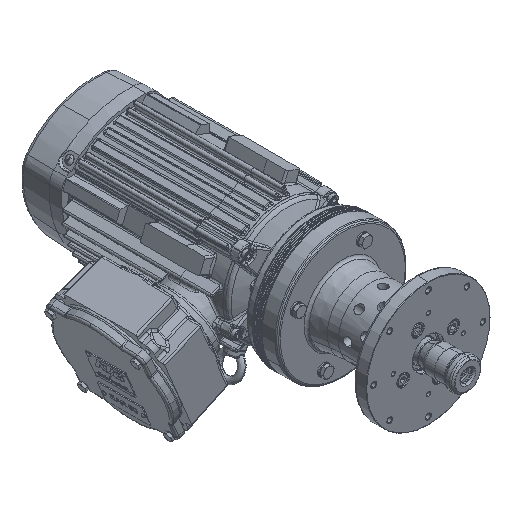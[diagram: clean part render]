
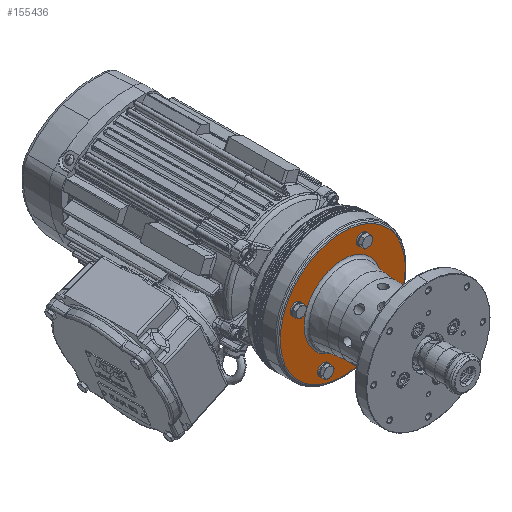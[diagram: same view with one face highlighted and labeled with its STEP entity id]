
A CAD part, isometric view. The second image highlights one B-rep face of the part: STEP entity #155436.
In plain terms, the highlighted planar face has unit normal (0, -1, 0).
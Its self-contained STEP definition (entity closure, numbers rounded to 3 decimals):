
#409 = CIRCLE ( 'NONE', #87055, 80.172 ) ;
#466 = ORIENTED_EDGE ( 'NONE', *, *, #133284, .T. ) ;
#579 = CIRCLE ( 'NONE', #78990, 4.1 ) ;
#1016 = VERTEX_POINT ( 'NONE', #162143 ) ;
#1484 = DIRECTION ( 'NONE',  ( 0., -1., 0. ) ) ;
#1885 = ORIENTED_EDGE ( 'NONE', *, *, #32575, .T. ) ;
#2301 = CIRCLE ( 'NONE', #10406, 4.1 ) ;
#4615 = DIRECTION ( 'NONE',  ( 0.924, 0., 0.383 ) ) ;
#5212 = AXIS2_PLACEMENT_3D ( 'NONE', #7483, #109858, #161789 ) ;
#6490 = DIRECTION ( 'NONE',  ( 0.924, 0., 0.383 ) ) ;
#7323 = CARTESIAN_POINT ( 'NONE',  ( 21.087, 109.7, 58.483 ) ) ;
#7483 = CARTESIAN_POINT ( 'NONE',  ( 0., 109.7, 0. ) ) ;
#7927 = DIRECTION ( 'NONE',  ( 0.924, 0., 0.383 ) ) ;
#8499 = CARTESIAN_POINT ( 'NONE',  ( 24.874, 109.7, 60.052 ) ) ;
#9047 = ORIENTED_EDGE ( 'NONE', *, *, #151559, .F. ) ;
#9292 = DIRECTION ( 'NONE',  ( 0.924, 0., 0.383 ) ) ;
#9958 = ORIENTED_EDGE ( 'NONE', *, *, #48568, .F. ) ;
#10406 = AXIS2_PLACEMENT_3D ( 'NONE', #132736, #1484, #105537 ) ;
#10506 = DIRECTION ( 'NONE',  ( 0., -1., 0. ) ) ;
#11238 = DIRECTION ( 'NONE',  ( 0.924, 0., 0.383 ) ) ;
#12480 = AXIS2_PLACEMENT_3D ( 'NONE', #39206, #142637, #26519 ) ;
#15012 = EDGE_LOOP ( 'NONE', ( #38539, #114709 ) ) ;
#16200 = EDGE_CURVE ( 'NONE', #96593, #28289, #2301, .T. ) ;
#22996 = AXIS2_PLACEMENT_3D ( 'NONE', #23214, #10506, #62143 ) ;
#23118 = DIRECTION ( 'NONE',  ( 0., -1., 0. ) ) ;
#23214 = CARTESIAN_POINT ( 'NONE',  ( -60.052, 109.7, 24.874 ) ) ;
#25476 = CIRCLE ( 'NONE', #39010, 4.1 ) ;
#25628 = CARTESIAN_POINT ( 'NONE',  ( -24.874, 109.7, -60.052 ) ) ;
#26519 = DIRECTION ( 'NONE',  ( 0.924, 0., 0.383 ) ) ;
#28289 = VERTEX_POINT ( 'NONE', #162820 ) ;
#31194 = ORIENTED_EDGE ( 'NONE', *, *, #158045, .T. ) ;
#32575 = EDGE_CURVE ( 'NONE', #110926, #56280, #109713, .T. ) ;
#34673 = CARTESIAN_POINT ( 'NONE',  ( -42.96, 109.7, -17.795 ) ) ;
#34997 = DIRECTION ( 'NONE',  ( 0.924, 0., 0.383 ) ) ;
#36334 = CARTESIAN_POINT ( 'NONE',  ( 28.662, 109.7, 61.621 ) ) ;
#36802 = ORIENTED_EDGE ( 'NONE', *, *, #16200, .F. ) ;
#38539 = ORIENTED_EDGE ( 'NONE', *, *, #89474, .F. ) ;
#39010 = AXIS2_PLACEMENT_3D ( 'NONE', #112031, #110336, #7927 ) ;
#39206 = CARTESIAN_POINT ( 'NONE',  ( 0., 109.7, 0. ) ) ;
#43511 = DIRECTION ( 'NONE',  ( 0.924, 0., 0.383 ) ) ;
#43879 = VERTEX_POINT ( 'NONE', #67357 ) ;
#44027 = FACE_OUTER_BOUND ( 'NONE', #107988, .T. ) ;
#45159 = AXIS2_PLACEMENT_3D ( 'NONE', #34673, #102359, #9292 ) ;
#45349 = CARTESIAN_POINT ( 'NONE',  ( -63.84, 109.7, 23.305 ) ) ;
#45859 = CIRCLE ( 'NONE', #5212, 49.564 ) ;
#47328 = ORIENTED_EDGE ( 'NONE', *, *, #64383, .F. ) ;
#48523 = VERTEX_POINT ( 'NONE', #60455 ) ;
#48568 = EDGE_CURVE ( 'NONE', #72221, #95410, #25476, .T. ) ;
#50451 = DIRECTION ( 'NONE',  ( 0.924, 0., 0.383 ) ) ;
#53914 = CIRCLE ( 'NONE', #61997, 4.1 ) ;
#56280 = VERTEX_POINT ( 'NONE', #66243 ) ;
#57751 = VERTEX_POINT ( 'NONE', #73760 ) ;
#60455 = CARTESIAN_POINT ( 'NONE',  ( 45.791, 109.7, 18.967 ) ) ;
#61997 = AXIS2_PLACEMENT_3D ( 'NONE', #25628, #77268, #34997 ) ;
#62143 = DIRECTION ( 'NONE',  ( 0.924, 0., 0.383 ) ) ;
#64383 = EDGE_CURVE ( 'NONE', #28289, #96593, #95930, .T. ) ;
#66243 = CARTESIAN_POINT ( 'NONE',  ( 74.069, 109.7, 30.68 ) ) ;
#67357 = CARTESIAN_POINT ( 'NONE',  ( -21.087, 109.7, -58.483 ) ) ;
#68080 = DIRECTION ( 'NONE',  ( 0., -1., 0. ) ) ;
#68887 = CARTESIAN_POINT ( 'NONE',  ( 24.874, 109.7, 60.052 ) ) ;
#69370 = EDGE_CURVE ( 'NONE', #1016, #43879, #53914, .T. ) ;
#72221 = VERTEX_POINT ( 'NONE', #90841 ) ;
#73760 = CARTESIAN_POINT ( 'NONE',  ( -45.791, 109.7, -18.967 ) ) ;
#77268 = DIRECTION ( 'NONE',  ( 0., -1., 0. ) ) ;
#78154 = EDGE_CURVE ( 'NONE', #43879, #1016, #107445, .T. ) ;
#78990 = AXIS2_PLACEMENT_3D ( 'NONE', #80787, #68080, #4615 ) ;
#79202 = CARTESIAN_POINT ( 'NONE',  ( 56.264, 109.7, -26.443 ) ) ;
#80787 = CARTESIAN_POINT ( 'NONE',  ( 60.052, 109.7, -24.874 ) ) ;
#82070 = FACE_BOUND ( 'NONE', #15012, .T. ) ;
#83229 = EDGE_LOOP ( 'NONE', ( #83332, #123976 ) ) ;
#83332 = ORIENTED_EDGE ( 'NONE', *, *, #78154, .F. ) ;
#83861 = EDGE_CURVE ( 'NONE', #56280, #110926, #409, .T. ) ;
#85469 = CIRCLE ( 'NONE', #12480, 49.564 ) ;
#87055 = AXIS2_PLACEMENT_3D ( 'NONE', #136129, #164172, #6490 ) ;
#88690 = AXIS2_PLACEMENT_3D ( 'NONE', #128375, #127533, #50451 ) ;
#89474 = EDGE_CURVE ( 'NONE', #152995, #127923, #95746, .T. ) ;
#89736 = DIRECTION ( 'NONE',  ( 0.924, 0., 0.383 ) ) ;
#90841 = CARTESIAN_POINT ( 'NONE',  ( 63.84, 109.7, -23.305 ) ) ;
#92364 = CARTESIAN_POINT ( 'NONE',  ( -74.069, 109.7, -30.68 ) ) ;
#94831 = FACE_BOUND ( 'NONE', #156786, .T. ) ;
#95410 = VERTEX_POINT ( 'NONE', #79202 ) ;
#95530 = AXIS2_PLACEMENT_3D ( 'NONE', #68887, #159696, #43511 ) ;
#95746 = CIRCLE ( 'NONE', #144630, 4.1 ) ;
#95930 = CIRCLE ( 'NONE', #22996, 4.1 ) ;
#96593 = VERTEX_POINT ( 'NONE', #45349 ) ;
#100246 = EDGE_LOOP ( 'NONE', ( #31194, #466 ) ) ;
#102359 = DIRECTION ( 'NONE',  ( 0., 1., 0. ) ) ;
#105537 = DIRECTION ( 'NONE',  ( 0.924, 0., 0.383 ) ) ;
#107445 = CIRCLE ( 'NONE', #88690, 4.1 ) ;
#107988 = EDGE_LOOP ( 'NONE', ( #136689, #1885 ) ) ;
#109146 = FACE_BOUND ( 'NONE', #133172, .T. ) ;
#109713 = CIRCLE ( 'NONE', #134158, 80.172 ) ;
#109858 = DIRECTION ( 'NONE',  ( 0., 1., 0. ) ) ;
#110336 = DIRECTION ( 'NONE',  ( 0., -1., 0. ) ) ;
#110926 = VERTEX_POINT ( 'NONE', #92364 ) ;
#112031 = CARTESIAN_POINT ( 'NONE',  ( 60.052, 109.7, -24.874 ) ) ;
#114709 = ORIENTED_EDGE ( 'NONE', *, *, #123639, .F. ) ;
#121934 = FACE_BOUND ( 'NONE', #83229, .T. ) ;
#122671 = CIRCLE ( 'NONE', #95530, 4.1 ) ;
#123639 = EDGE_CURVE ( 'NONE', #127923, #152995, #122671, .T. ) ;
#123976 = ORIENTED_EDGE ( 'NONE', *, *, #69370, .F. ) ;
#127533 = DIRECTION ( 'NONE',  ( 0., -1., 0. ) ) ;
#127923 = VERTEX_POINT ( 'NONE', #7323 ) ;
#128375 = CARTESIAN_POINT ( 'NONE',  ( -24.874, 109.7, -60.052 ) ) ;
#129594 = DIRECTION ( 'NONE',  ( 0., -1., 0. ) ) ;
#132736 = CARTESIAN_POINT ( 'NONE',  ( -60.052, 109.7, 24.874 ) ) ;
#133172 = EDGE_LOOP ( 'NONE', ( #47328, #36802 ) ) ;
#133284 = EDGE_CURVE ( 'NONE', #57751, #48523, #85469, .T. ) ;
#133862 = PLANE ( 'NONE',  #45159 ) ;
#134158 = AXIS2_PLACEMENT_3D ( 'NONE', #142540, #23118, #11238 ) ;
#136129 = CARTESIAN_POINT ( 'NONE',  ( 0., 109.7, 0. ) ) ;
#136689 = ORIENTED_EDGE ( 'NONE', *, *, #83861, .T. ) ;
#142540 = CARTESIAN_POINT ( 'NONE',  ( 0., 109.7, 0. ) ) ;
#142637 = DIRECTION ( 'NONE',  ( 0., 1., 0. ) ) ;
#144630 = AXIS2_PLACEMENT_3D ( 'NONE', #8499, #129594, #89736 ) ;
#151559 = EDGE_CURVE ( 'NONE', #95410, #72221, #579, .T. ) ;
#152995 = VERTEX_POINT ( 'NONE', #36334 ) ;
#155436 = ADVANCED_FACE ( 'NONE', ( #159369, #94831, #121934, #109146, #82070, #44027 ), #133862, .F. ) ;
#156786 = EDGE_LOOP ( 'NONE', ( #9958, #9047 ) ) ;
#158045 = EDGE_CURVE ( 'NONE', #48523, #57751, #45859, .T. ) ;
#159369 = FACE_BOUND ( 'NONE', #100246, .T. ) ;
#159696 = DIRECTION ( 'NONE',  ( 0., -1., 0. ) ) ;
#161789 = DIRECTION ( 'NONE',  ( 0.924, 0., 0.383 ) ) ;
#162143 = CARTESIAN_POINT ( 'NONE',  ( -28.662, 109.7, -61.621 ) ) ;
#162820 = CARTESIAN_POINT ( 'NONE',  ( -56.264, 109.7, 26.443 ) ) ;
#164172 = DIRECTION ( 'NONE',  ( 0., -1., 0. ) ) ;
